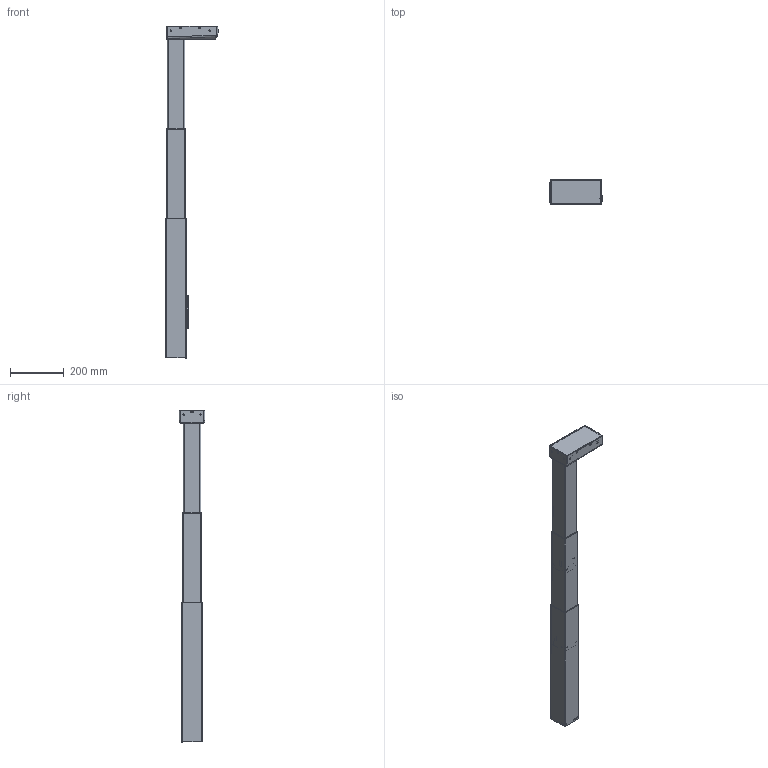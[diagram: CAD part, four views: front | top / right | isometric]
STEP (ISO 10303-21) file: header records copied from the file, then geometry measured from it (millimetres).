
FILE_DESCRIPTION(/* description */ ('Unknown'),/* implementation_level */ '2;1');
FILE_NAME(/* name */ '801.00036_00-Ausgefahren',/* time_stamp */ '2025-10-29T15:40:29+01:00',/* author */ ('Unknown'),/* organization */ ('Unknown'),/* preprocessor_version */ 'ST-DEVELOPER v20',/* originating_system */ 'Solid Edge',/* authorisation */ 'Unknown');
FILE_SCHEMA (('AUTOMOTIVE_DESIGN {1 0 10303 214 3 1 1}'));
Length unit declared in the file: millimetre
Products named in the file (7): 801.00036; EA Aussenprofil; EA Mittelprofil; EA Innenprofil; EA Motorengehäuse; EA Deckel; EA Molex
Assembly tree (6 placements, depth 2):
  801.00036
    EA Aussenprofil
    EA Mittelprofil
    EA Innenprofil
    EA Motorengehäuse
    EA Deckel
    EA Molex
Bounding box: 194.3 x 96 x 1235 mm (x, y, z)
Volume: 820427.1 mm3; surface area: 1007320.1 mm2
Topology: 8 solids, 8 shells, 937 faces, 2764 edges, 1853 vertices
Faces by surface type: plane 517, cylinder 290, torus 48, cone 42, bspline 32, sphere 8
Full cylindrical faces by diameter (mm): 4.2 x2, 4.5 x4, 4.917 x14, 5.6 x8, 5.7 x8, 5.75 x2, 6 x1, 6.647 x2, 6.8 x2, 7.2 x6
Entity records: 37413 total; most frequent: CARTESIAN_POINT 9574, ORIENTED_EDGE 5456, DIRECTION 4471, EDGE_CURVE 2728, VERTEX_POINT 1837, LINE 1495, VECTOR 1495, AXIS2_PLACEMENT_3D 1488
